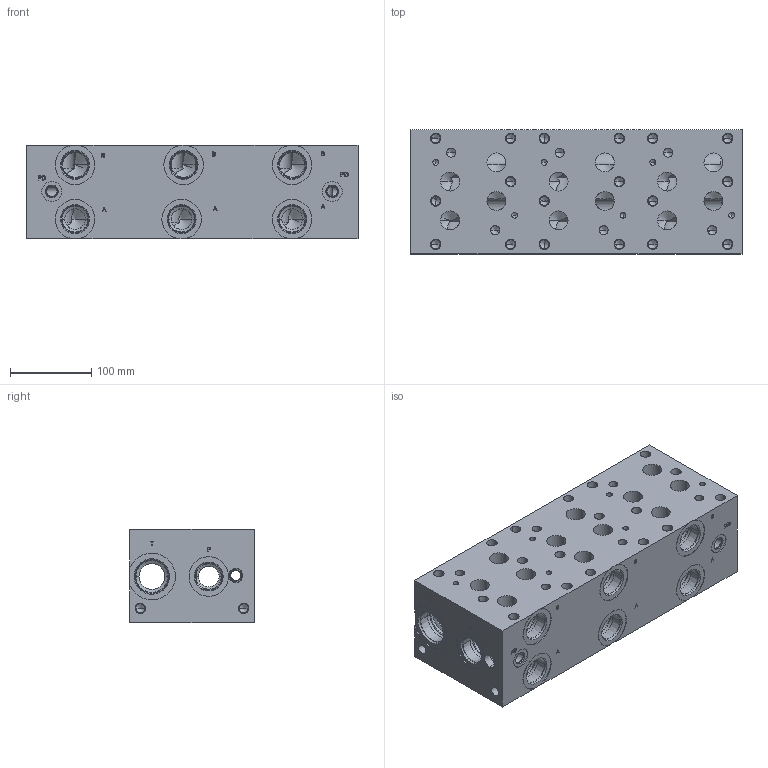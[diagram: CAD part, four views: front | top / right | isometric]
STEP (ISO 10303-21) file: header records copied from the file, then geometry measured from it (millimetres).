
FILE_DESCRIPTION (( 'STEP AP214' ), '1' );
FILE_NAME ('BM-ASP08S5-03-0-Z.STEP', '2020-01-21T14:15:13', ( '' ), ( '' ), 'SwSTEP 2.0', 'SolidWorks 2018', '' );
FILE_SCHEMA (( 'AUTOMOTIVE_DESIGN' ));
Length unit declared in the file: inch
Products named in the file (1): BM-ASP08S5-03-0-Z
Bounding box: 407.92 x 152.4 x 114.3 mm (x, y, z)
Volume: 5804608.6 mm3; surface area: 449915.7 mm2
Topology: 1 solids, 1 shells, 787 faces, 1952 edges, 1140 vertices
Faces by surface type: cylinder 270, cone 268, plane 173, bspline 76
Entity records: 34963 total; most frequent: CARTESIAN_POINT 9588, ORIENTED_EDGE 3720, DIRECTION 3600, EDGE_CURVE 1860, AXIS2_PLACEMENT_3D 1300, VERTEX_POINT 1140, LINE 1000, VECTOR 1000
